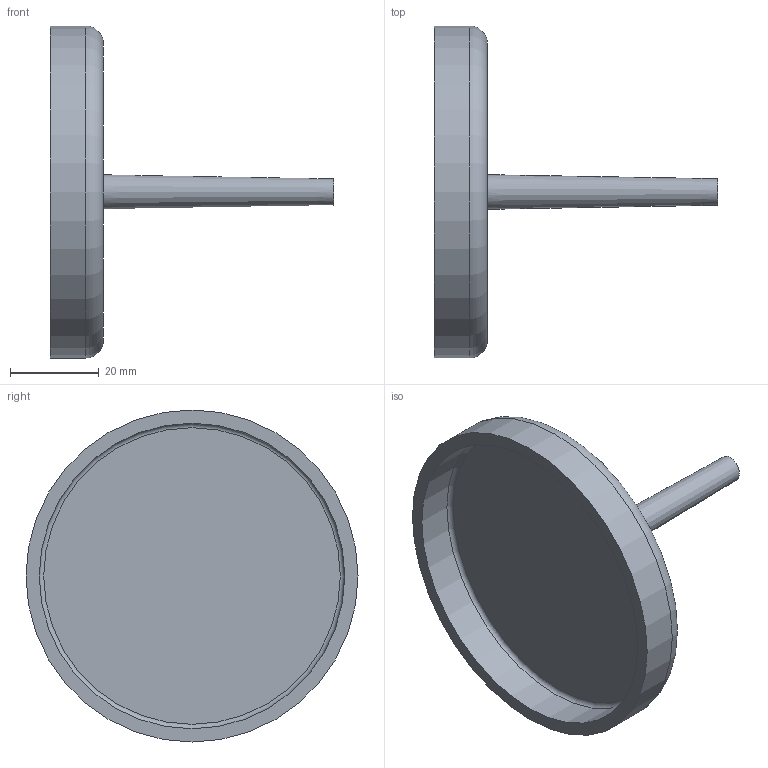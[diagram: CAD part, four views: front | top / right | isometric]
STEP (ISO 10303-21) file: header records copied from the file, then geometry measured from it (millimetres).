
FILE_DESCRIPTION(/* description */ (''),/* implementation_level */ '2;1');
FILE_NAME(/* name */ 'Z:\Geberit\Export\NewStep\Abschlussdeckel_Ipart\stp\365812.stp',/* time_stamp */ '2014-04-03T17:36:51+02:00',/* author */ ('Bründl'),/* organization */ (''),/* preprocessor_version */ 'ST-DEVELOPER v15.2',/* originating_system */ 'Autodesk Inventor 2014',/* authorisation */ '');
FILE_SCHEMA (('AUTOMOTIVE_DESIGN { 1 0 10303 214 3 1 1 }'));
Length unit declared in the file: millimetre
Products named in the file (1): 365812
Bounding box: 64 x 75 x 75 mm (x, y, z)
Volume: 20577.3 mm3; surface area: 14217.9 mm2
Topology: 1 solids, 1 shells, 9 faces, 13 edges, 8 vertices
Faces by surface type: plane 4, cylinder 2, torus 2, cone 1
Full cylindrical faces by diameter (mm): 69 x1, 75 x1
Entity records: 204 total; most frequent: DIRECTION 36, CARTESIAN_POINT 26, AXIS2_PLACEMENT_3D 18, EDGE_LOOP 16, ORIENTED_EDGE 16, STYLED_ITEM 10, ADVANCED_FACE 9, FACE_BOUND 8
